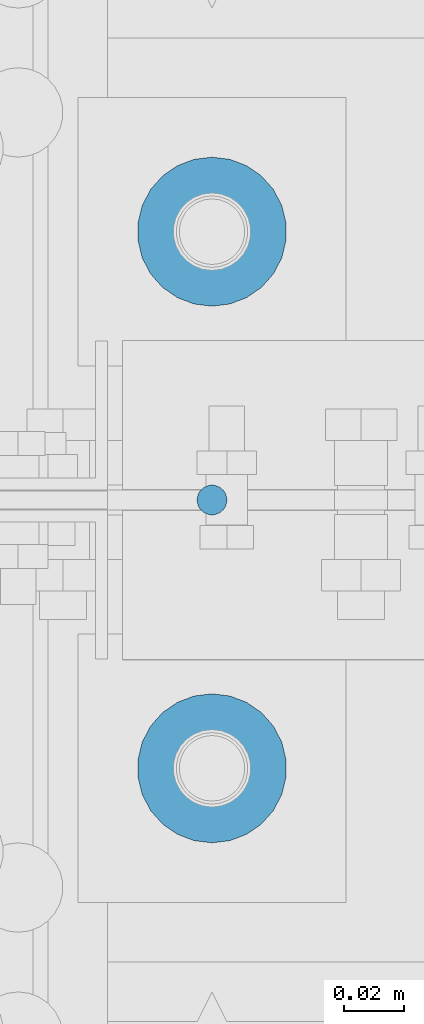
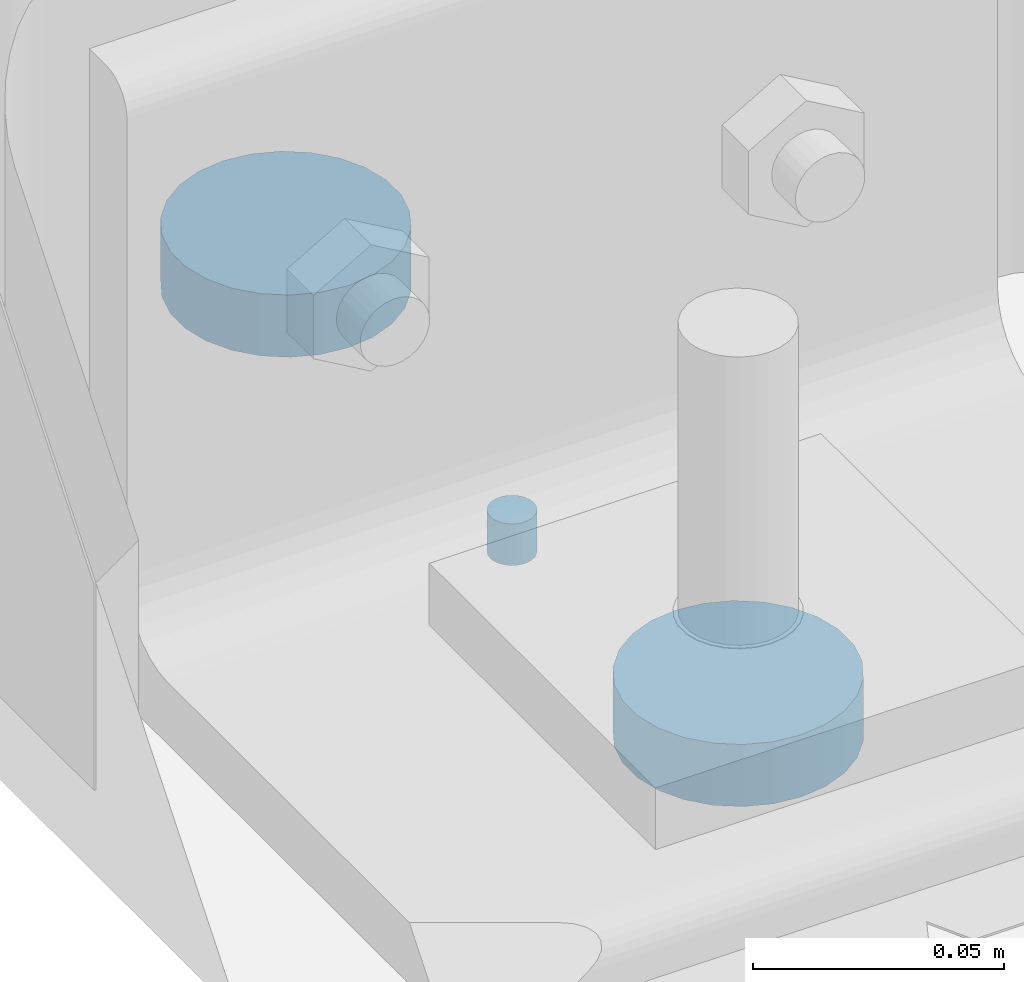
# One storey, part 232 of 362: 3 mechanical fasteners.
"""IFC2X3 building model written with IfcOpenShell, lengths in millimetres."""

import ifcopenshell
import ifcopenshell.guid

model = None  # the IFC model being written
_history = None  # IfcOwnerHistory: only IFC2X3 demands one
_inside = {}  # id of a spatial element -> (the spatial element, [elements in it])
_under = {}  # id of a project, library or spatial element -> (it, [spatial elements below it])
_declared = {}  # id of a project -> (the project, [libraries it declares])
_typed = {}  # id of a type object -> (the type object, [elements of that type])
_made_of = {}  # id of a material, layer set ... -> (it, [elements and type objects made of it])


def new_model(schema):
    """Start an empty IFC model of exactly this schema.

    Asked for "IFC4X3", IfcOpenShell would pick the latest addendum, in which some entities
    have other attributes; the version numbers below select the first issue.
    IFC2X3 requires an IfcOwnerHistory on every rooted entity: one is made here for all.
    """
    global model, _history
    if schema == "IFC4X3":
        model = ifcopenshell.file(schema_version=(4, 3, 0, 0))
    else:
        model = ifcopenshell.file(schema=schema)
    _inside.clear()
    _under.clear()
    _declared.clear()
    _typed.clear()
    _made_of.clear()
    _history = None
    if model.schema == "IFC2X3":
        org = make("IfcOrganization", Name="unknown")
        user = make(
            "IfcPersonAndOrganization",
            ThePerson=make("IfcPerson", FamilyName="unknown"),
            TheOrganization=org,
        )
        app = make(
            "IfcApplication",
            ApplicationDeveloper=org,
            Version="unknown",
            ApplicationFullName="unknown",
            ApplicationIdentifier="unknown",
        )
        _history = make(
            "IfcOwnerHistory",
            OwningUser=user,
            OwningApplication=app,
            ChangeAction="ADDED",
            CreationDate=0,
        )
    return model


def make(cls, **values):
    """One entity of the class cls with the attributes given. An attribute that is None is left unset."""
    return model.create_entity(
        cls, **{name: value for name, value in values.items() if value is not None}
    )


def rooted(cls, **values):
    """An entity with a GlobalId (a new one), such as an element, a storey or a relation."""
    return make(cls, GlobalId=ifcopenshell.guid.new(), OwnerHistory=_history, **values)


def si_unit(unit_type, name, prefix=None):
    """IfcSIUnit, for example si_unit("LENGTHUNIT", "METRE", prefix="MILLI")."""
    return make("IfcSIUnit", UnitType=unit_type, Prefix=prefix, Name=name)


def assignment(units):
    """IfcUnitAssignment: the units of a project."""
    return None if units is None else make("IfcUnitAssignment", Units=units)


def point(xyz):
    """IfcCartesianPoint."""
    return None if xyz is None else make("IfcCartesianPoint", Coordinates=xyz)


def direction(xyz):
    """IfcDirection."""
    return None if xyz is None else make("IfcDirection", DirectionRatios=xyz)


def frame(location, z_axis=None, x_axis=None):
    """IfcAxis2Placement3D, a coordinate frame: its origin and axes. An axis left out is left unset."""
    return make(
        "IfcAxis2Placement3D",
        Location=point(location),
        Axis=direction(z_axis),
        RefDirection=direction(x_axis),
    )


def frame_2d(location, x_axis=None):
    """IfcAxis2Placement2D, a coordinate frame in the plane: its origin and x axis."""
    return make(
        "IfcAxis2Placement2D", Location=point(location), RefDirection=direction(x_axis)
    )


def origin_with_axes():
    """The frame at (0, 0, 0) with the z axis (0, 0, 1) and the x axis (1, 0, 0) written out."""
    return frame((0.0, 0.0, 0.0), z_axis=(0.0, 0.0, 1.0), x_axis=(1.0, 0.0, 0.0))


def origin_2d_with_axis():
    """The frame at (0, 0) in the plane with the x axis (1, 0) written out."""
    return frame_2d((0.0, 0.0), x_axis=(1.0, 0.0))


def place(relative_to, where):
    """IfcLocalPlacement: puts the frame where relative to a parent placement (None: the world)."""
    return make(
        "IfcLocalPlacement", PlacementRelTo=relative_to, RelativePlacement=where
    )


def context(
    kind, dimensions, precision=None, world=None, true_north=None, identifier=None
):
    """IfcGeometricRepresentationContext, for example the 3D "Model" context."""
    return make(
        "IfcGeometricRepresentationContext",
        ContextIdentifier=identifier,
        ContextType=kind,
        CoordinateSpaceDimension=dimensions,
        Precision=precision,
        WorldCoordinateSystem=world,
        TrueNorth=true_north,
    )


def subcontext(parent, identifier, kind, view, scale=None):
    """IfcGeometricRepresentationSubContext, for example "Body" below "Model"."""
    return make(
        "IfcGeometricRepresentationSubContext",
        ContextIdentifier=identifier,
        ContextType=kind,
        ParentContext=parent,
        TargetScale=scale,
        TargetView=view,
    )


def project(units=None, contexts=None):
    """IfcProject with its units and contexts."""
    return rooted(
        "IfcProject",
        Name="project",
        RepresentationContexts=contexts,
        UnitsInContext=assignment(units),
    )


def spatial(cls, under=None, at=None, **own):
    """A site, building, storey or space (cls), placed at a placement, below another one or the project."""
    s = rooted(cls, ObjectPlacement=at, **own)
    if under is not None:
        _under.setdefault(under.id(), (under, []))[1].append(s)
    return s


def profile(cls, at=None, kind="AREA", **sizes):
    """A parametric profile (cls). Its sizes go by their IFC names, for example OverallWidth=200.0."""
    return make(cls, ProfileType=kind, Position=at, **sizes)


def circle(**sizes):
    """IfcCircleProfileDef."""
    return profile("IfcCircleProfileDef", **sizes)


def extrude(swept, where, along, depth):
    """IfcExtrudedAreaSolid: the profile swept, set in the frame where, extruded along a direction by depth."""
    return make(
        "IfcExtrudedAreaSolid",
        SweptArea=swept,
        Position=where,
        ExtrudedDirection=direction(along),
        Depth=depth,
    )


def shape(context_of_items, identifier, shape_type, items):
    """IfcShapeRepresentation: the items that make up one representation, for example the "Body"."""
    return make(
        "IfcShapeRepresentation",
        ContextOfItems=context_of_items,
        RepresentationIdentifier=identifier,
        RepresentationType=shape_type,
        Items=items,
    )


def source(mapping_origin, context_of_items, identifier, shape_type, items):
    """IfcRepresentationMap: a shape defined once, which mapped items show again and again."""
    return make(
        "IfcRepresentationMap",
        MappingOrigin=mapping_origin,
        MappedRepresentation=shape(context_of_items, identifier, shape_type, items),
    )


def transform(
    local_origin,
    x_axis=None,
    y_axis=None,
    z_axis=None,
    scale=None,
    scale2=None,
    scale3=None,
    uniform=True,
):
    """IfcCartesianTransformationOperator3D, or its non-uniform kind. x_axis, y_axis, z_axis: its Axis1, 2, 3."""
    if uniform:
        return make(
            "IfcCartesianTransformationOperator3D",
            Axis1=direction(x_axis),
            Axis2=direction(y_axis),
            LocalOrigin=point(local_origin),
            Scale=scale,
            Axis3=direction(z_axis),
        )
    return make(
        "IfcCartesianTransformationOperator3DnonUniform",
        Axis1=direction(x_axis),
        Axis2=direction(y_axis),
        LocalOrigin=point(local_origin),
        Scale=scale,
        Axis3=direction(z_axis),
        Scale2=scale2,
        Scale3=scale3,
    )


def mapped(mapping_source, mapping_target):
    """IfcMappedItem: shows the shape of a source again, moved by a transform."""
    return make(
        "IfcMappedItem", MappingSource=mapping_source, MappingTarget=mapping_target
    )


def material(Name=None, Category=None):
    """IfcMaterial."""
    return make("IfcMaterial", Name=Name, Category=Category)


def made_of(thing, what):
    """Note that an element or type object is made of a material, layer set ...; save() writes the relation."""
    if what is not None:
        _made_of.setdefault(what.id(), (what, []))[1].append(thing)
    return thing


def type_object(cls, material=None, **own):
    """A type object (cls), such as IfcWallType, which elements share."""
    return made_of(rooted(cls, **own), material)


def element(
    cls,
    number,
    at=None,
    inside=None,
    cuts=None,
    type_object=None,
    material=None,
    context=None,
    identifier="Body",
    shape_type=None,
    held_by="IfcProductDefinitionShape",
    body=None,
    shapes=None,
    **own,
):
    """One element of the class cls, such as IfcWall. Its Tag is "e" and its number.

    at: its placement. inside: the storey or other place that contains it. cuts: it is an
    opening in that element (IfcRelVoidsElement). A single representation is given by context,
    identifier, shape_type and body (its items); several are given by shapes. held_by: the class
    of the entity that holds the representations. save() writes the other relations.
    """
    e = rooted(cls, Tag="e%d" % number, ObjectPlacement=at, **own)
    if body is not None:
        shapes = [shape(context, identifier, shape_type, body)]
    if shapes is not None:
        e.Representation = make(held_by, Representations=shapes)
    if inside is not None:
        _inside.setdefault(inside.id(), (inside, []))[1].append(e)
    if cuts is not None:
        rooted(
            "IfcRelVoidsElement", RelatingBuildingElement=cuts, RelatedOpeningElement=e
        )
    if type_object is not None:
        _typed.setdefault(type_object.id(), (type_object, []))[1].append(e)
    return made_of(e, material)


def aggregate(whole, parts):
    """IfcRelAggregates: a whole, such as a stair, and the parts it consists of."""
    return rooted("IfcRelAggregates", RelatingObject=whole, RelatedObjects=parts)


def save(model, path):
    """Write the relations noted so far, then the file.

    IfcRelAggregates (storeys below a building ...), IfcRelContainedInSpatialStructure (elements
    in a storey), IfcRelDefinesByType, IfcRelAssociatesMaterial and IfcRelDeclares: one each for
    every whole, place, type object, material and project.
    """
    for whole, parts in _under.values():
        aggregate(whole, parts)
    for where, things in _inside.values():
        rooted(
            "IfcRelContainedInSpatialStructure",
            RelatedElements=things,
            RelatingStructure=where,
        )
    for kind, things in _typed.values():
        rooted("IfcRelDefinesByType", RelatedObjects=things, RelatingType=kind)
    for what, things in _made_of.values():
        rooted("IfcRelAssociatesMaterial", RelatedObjects=things, RelatingMaterial=what)
    for by, libraries in _declared.values():
        rooted("IfcRelDeclares", RelatingContext=by, RelatedDefinitions=libraries)
    model.write(path)


model = new_model("IFC2X3")

# Units and contexts
model_context = context("Model", 3, precision=1e-05, world=origin_with_axes())
body_context = subcontext(model_context, "Body", "Model", "MODEL_VIEW")
ifc_project = project(units=[si_unit("LENGTHUNIT", "METRE", prefix="MILLI"), si_unit("AREAUNIT", "SQUARE_METRE"), si_unit("VOLUMEUNIT", "CUBIC_METRE"), si_unit("MASSUNIT", "GRAM", prefix="KILO"), si_unit("TIMEUNIT", "SECOND"), si_unit("PLANEANGLEUNIT", "RADIAN"), si_unit("SOLIDANGLEUNIT", "STERADIAN"), si_unit("THERMODYNAMICTEMPERATUREUNIT", "DEGREE_CELSIUS"), si_unit("LUMINOUSINTENSITYUNIT", "LUMEN")], contexts=[model_context])

# Site, building, storey
site_placement = place(None, origin_with_axes())
site = spatial("IfcSite", under=ifc_project, at=site_placement, Name="Undefined", CompositionType="ELEMENT")
building_placement = place(site_placement, origin_with_axes())
building = spatial("IfcBuilding", under=site, at=building_placement, Name="Undefined", CompositionType="ELEMENT")
storey_placement = place(building_placement, origin_with_axes())
storey = spatial("IfcBuildingStorey", under=building, at=storey_placement, Name="Undefined", CompositionType="ELEMENT", Elevation=0.0)

# Mechanical fasteners
ifc_material = material(Name="6.8")
mechanical_fastener_type = type_object("IfcMechanicalFastenerType", Name="Bolt assembly")
shared_shape_1 = source(origin_with_axes(), body_context, "Body", "SweptSolid", [
    extrude(circle(Radius=25.0, at=origin_2d_with_axis()), frame((0.0, -14.999999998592, 0.0), z_axis=(0.0, 1.0, 0.0), x_axis=(1.0, 0.0, 0.0)), (0.0, 0.0, 1.0), 15.1),
])
for number, where, z_axis, x_axis, name in (
    (1, (-45.0, 7510.0, -200.0), (-1.0, 0.0, 0.0), (0.0, 1.0, 0.0), "Bolt assembly"),
    (2, (-45.0, 7690.0, -200.0), (1.0, 0.0, 0.0), (0.0, -1.0, 0.0), "Bolt assembly"),
):
    element("IfcMechanicalFastener", number, at=place(storey_placement, frame(where, z_axis=z_axis, x_axis=x_axis)), inside=storey, type_object=mechanical_fastener_type, material=ifc_material, Name=name, NominalDiameter=30.0, NominalLength=15.0, context=body_context, shape_type="MappedRepresentation", body=[
        mapped(shared_shape_1, transform((0.0, 0.0, 0.0))),
    ])
shared_shape_2 = source(origin_with_axes(), body_context, "Body", "SweptSolid", [
    extrude(circle(Radius=5.0, at=origin_2d_with_axis()), frame((0.0, 0.0, 0.0), z_axis=(0.0, 1.0, 0.0), x_axis=(1.0, 0.0, 0.0)), (0.0, 0.0, 1.0), 10.1),
])
mechanical_fastener_placement = place(storey_placement, frame((-45.0, 7600.00000007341, -200.0), z_axis=(0.0, 1.0, 0.0), x_axis=(1.0, 0.0, 0.0)))
element("IfcMechanicalFastener", 3, at=mechanical_fastener_placement, inside=storey, type_object=mechanical_fastener_type, material=ifc_material, Name="Bolt assembly", NominalDiameter=8.0, NominalLength=10.0, context=body_context, shape_type="MappedRepresentation", body=[
    mapped(shared_shape_2, transform((0.0, 0.0, 0.0))),
])

save(model, "model.ifc")
